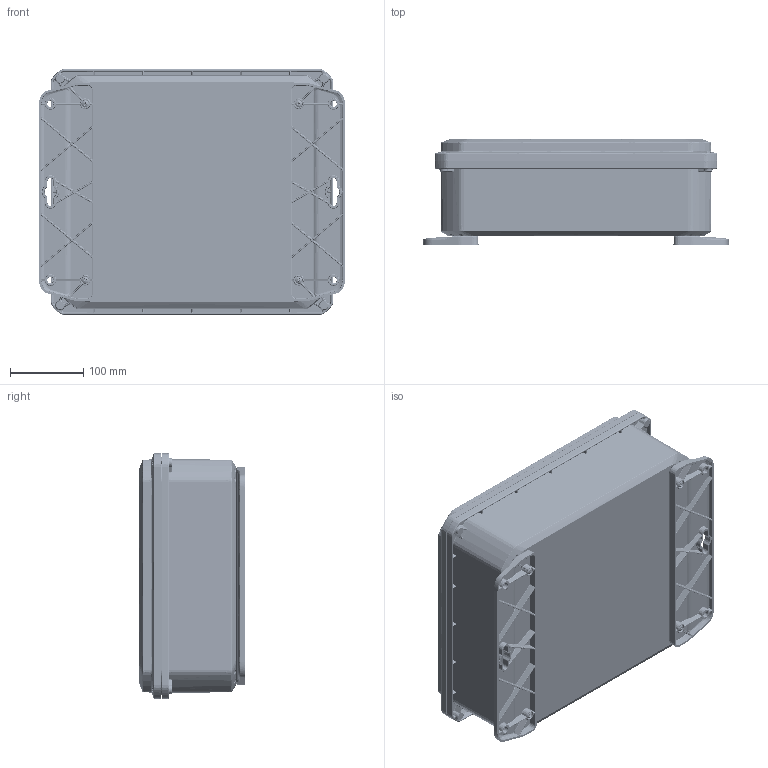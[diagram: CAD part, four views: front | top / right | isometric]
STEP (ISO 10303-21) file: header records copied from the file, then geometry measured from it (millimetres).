
FILE_DESCRIPTION (( 'STEP AP214' ), '1' );
FILE_NAME ('ZQ-141204-14.STEP', '2024-10-25T19:31:03', ( '' ), ( '' ), 'SwSTEP 2.0', 'SolidWorks 2024', '' );
FILE_SCHEMA (( 'AUTOMOTIVE_DESIGN' ));
Products named in the file (10): Z_-14124BI_ZQ-14124BI-01; SCREWS-046_SCREWS-046; Z_-14121CG_ZQ-14121CG-01; ZH-12F_ZH-12F-01; Z_-14124B_ZQ-14124B-01; ZH-1412G; Z_-14121C_ZQ-14121C-01; ZQ-141204-14; INSERTS-4; LABEL-104
Assembly tree (28 placements, depth 3):
  ZQ-141204-14
    Z_-14124BI_ZQ-14124BI-01
      Z_-14124B_ZQ-14124B-01
      INSERTS-4  x12
      LABEL-104
    Z_-14121CG_ZQ-14121CG-01
      Z_-14121C_ZQ-14121C-01
      ZH-1412G
    SCREWS-046_SCREWS-046  x8
    ZH-12F_ZH-12F-01  x2
Bounding box: 419.1 x 145.34 x 336.3 mm (x, y, z)
Volume: 2248709 mm3; surface area: 1100767.9 mm2
Topology: 26 solids, 26 shells, 7928 faces, 19384 edges, 11398 vertices
Faces by surface type: bspline 2264, cone 1762, cylinder 1500, plane 1408, torus 958, sphere 36
Entity records: 271307 total; most frequent: CARTESIAN_POINT 168938, ORIENTED_EDGE 23424, DIRECTION 18943, EDGE_CURVE 11712, AXIS2_PLACEMENT_3D 8141, VERTEX_POINT 6821, EDGE_LOOP 5253, ADVANCED_FACE 5068
